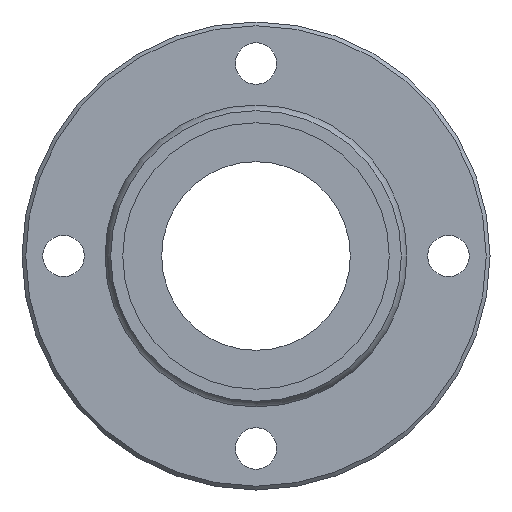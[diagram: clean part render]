
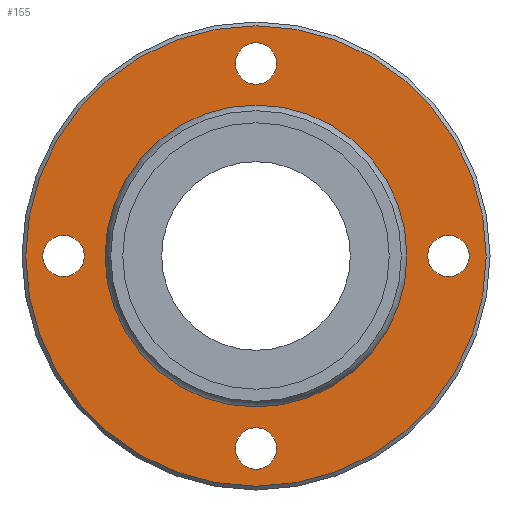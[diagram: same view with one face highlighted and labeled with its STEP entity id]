
A CAD part, left-side view. The second image highlights one B-rep face of the part: STEP entity #155.
In plain terms, the highlighted planar face has unit normal (-1, 0, 0).
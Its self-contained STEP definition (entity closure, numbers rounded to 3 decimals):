
#60=CARTESIAN_POINT('',(8.,0.,30.5));
#61=VERTEX_POINT('',#60);
#62=CARTESIAN_POINT('',(8.,0.0,0.0));
#63=DIRECTION('',(1.0,0.0,0.0));
#64=DIRECTION('',(0.0,0.0,-1.0));
#65=AXIS2_PLACEMENT_3D('',#62,#63,#64);
#66=CIRCLE('',#65,30.5);
#67=EDGE_CURVE('',#61,#61,#66,.T.);
#92=CARTESIAN_POINT('',(8.,0.0,25.282));
#93=DIRECTION('',(-1.0,0.0,0.0));
#94=DIRECTION('',(0.0,0.0,1.0));
#95=AXIS2_PLACEMENT_3D('',#92,#93,#94);
#96=PLANE('',#95);
#97=ORIENTED_EDGE('',*,*,#67,.F.);
#98=EDGE_LOOP('',(#97));
#99=FACE_OUTER_BOUND('',#98,.T.);
#100=CARTESIAN_POINT('',(8.,0.0,19.564));
#101=VERTEX_POINT('',#100);
#102=CARTESIAN_POINT('',(8.,0.0,0.0));
#103=DIRECTION('',(-1.0,0.0,0.0));
#104=DIRECTION('',(0.0,0.0,1.0));
#105=AXIS2_PLACEMENT_3D('',#102,#103,#104);
#106=CIRCLE('',#105,19.564);
#107=EDGE_CURVE('',#101,#101,#106,.T.);
#108=ORIENTED_EDGE('',*,*,#107,.F.);
#109=EDGE_LOOP('',(#108));
#110=FACE_BOUND('',#109,.T.);
#111=CARTESIAN_POINT('',(8.,22.75,0.));
#112=VERTEX_POINT('',#111);
#113=CARTESIAN_POINT('',(8.,25.5,0.));
#114=DIRECTION('',(1.0,0.0,0.0));
#115=DIRECTION('',(0.0,1.0,0.0));
#116=AXIS2_PLACEMENT_3D('',#113,#114,#115);
#117=CIRCLE('',#116,2.75);
#118=EDGE_CURVE('',#112,#112,#117,.T.);
#119=ORIENTED_EDGE('',*,*,#118,.T.);
#120=EDGE_LOOP('',(#119));
#121=FACE_BOUND('',#120,.T.);
#122=CARTESIAN_POINT('',(8.,-28.25,0.));
#123=VERTEX_POINT('',#122);
#124=CARTESIAN_POINT('',(8.,-25.5,0.0));
#125=DIRECTION('',(1.0,0.0,0.0));
#126=DIRECTION('',(0.0,1.0,0.0));
#127=AXIS2_PLACEMENT_3D('',#124,#125,#126);
#128=CIRCLE('',#127,2.75);
#129=EDGE_CURVE('',#123,#123,#128,.T.);
#130=ORIENTED_EDGE('',*,*,#129,.T.);
#131=EDGE_LOOP('',(#130));
#132=FACE_BOUND('',#131,.T.);
#133=CARTESIAN_POINT('',(8.,-2.75,25.5));
#134=VERTEX_POINT('',#133);
#135=CARTESIAN_POINT('',(8.,0.,25.5));
#136=DIRECTION('',(1.0,0.0,0.0));
#137=DIRECTION('',(0.0,1.0,0.0));
#138=AXIS2_PLACEMENT_3D('',#135,#136,#137);
#139=CIRCLE('',#138,2.75);
#140=EDGE_CURVE('',#134,#134,#139,.T.);
#141=ORIENTED_EDGE('',*,*,#140,.T.);
#142=EDGE_LOOP('',(#141));
#143=FACE_BOUND('',#142,.T.);
#144=CARTESIAN_POINT('',(8.,-2.75,-25.5));
#145=VERTEX_POINT('',#144);
#146=CARTESIAN_POINT('',(8.,0.,-25.5));
#147=DIRECTION('',(1.0,0.0,0.0));
#148=DIRECTION('',(0.0,1.0,0.0));
#149=AXIS2_PLACEMENT_3D('',#146,#147,#148);
#150=CIRCLE('',#149,2.75);
#151=EDGE_CURVE('',#145,#145,#150,.T.);
#152=ORIENTED_EDGE('',*,*,#151,.T.);
#153=EDGE_LOOP('',(#152));
#154=FACE_BOUND('',#153,.T.);
#155=ADVANCED_FACE('',(#99,#110,#121,#132,#143,#154),#96,.T.);
